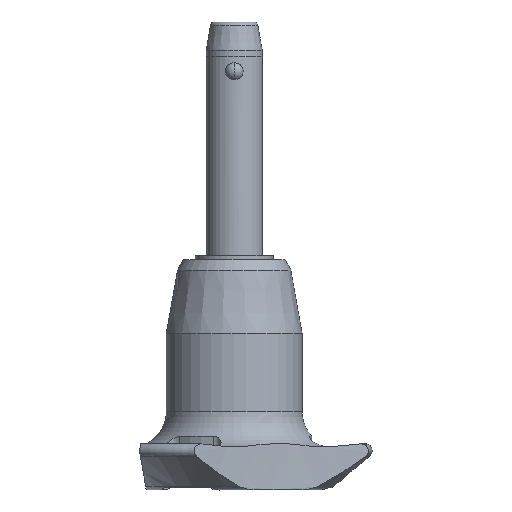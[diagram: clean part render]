
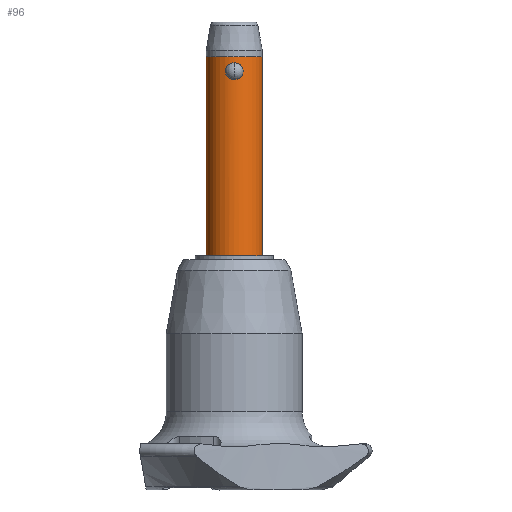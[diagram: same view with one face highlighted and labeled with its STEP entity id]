
A CAD part, front view. The second image highlights one B-rep face of the part: STEP entity #96.
In plain terms, the highlighted cylindrical face has radius 4 mm (diameter 8 mm), a partial arc.
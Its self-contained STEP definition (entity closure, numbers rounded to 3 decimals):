
#65 = VECTOR ( 'NONE', #993, 1000. ) ;
#96 = ADVANCED_FACE ( 'NONE', ( #2590, #1309 ), #2351, .T. ) ;
#97 = VERTEX_POINT ( 'NONE', #1957 ) ;
#138 = CARTESIAN_POINT ( 'NONE',  ( 4., 0., 3.28 ) ) ;
#183 = CARTESIAN_POINT ( 'NONE',  ( 0.326, -3.99, 2.371 ) ) ;
#199 = CARTESIAN_POINT ( 'NONE',  ( 0., -4., 0. ) ) ;
#206 = CARTESIAN_POINT ( 'NONE',  ( -1.266, -3.794, 1.12 ) ) ;
#232 = CARTESIAN_POINT ( 'NONE',  ( -0.628, -3.953, 0.143 ) ) ;
#403 = DIRECTION ( 'NONE',  ( 0., 0., 1. ) ) ;
#414 = CARTESIAN_POINT ( 'NONE',  ( 1.005, -3.874, 1.953 ) ) ;
#450 = CARTESIAN_POINT ( 'NONE',  ( -1.258, -3.797, 1.038 ) ) ;
#495 = EDGE_CURVE ( 'NONE', #2044, #2346, #1611, .T. ) ;
#526 = CARTESIAN_POINT ( 'NONE',  ( 4., 0., -25. ) ) ;
#543 = EDGE_LOOP ( 'NONE', ( #2053, #2291, #1184, #754 ) ) ;
#563 = VERTEX_POINT ( 'NONE', #526 ) ;
#584 = CARTESIAN_POINT ( 'NONE',  ( 0.627, -3.953, 0.143 ) ) ;
#621 = CARTESIAN_POINT ( 'NONE',  ( -0.553, -3.962, 2.285 ) ) ;
#627 = CARTESIAN_POINT ( 'NONE',  ( 0., 0., -25. ) ) ;
#639 = CARTESIAN_POINT ( 'NONE',  ( 0.164, -4., 2.4 ) ) ;
#645 = B_SPLINE_CURVE_WITH_KNOTS ( 'NONE', 3,
 ( #2588, #1072, #1688, #584, #2821, #2789, #1044, #1708, #2364, #1279, #2558, #1459, #875, #843, #1911, #2575, #414, #2135, #1304, #183, #639, #1059 ),
 .UNSPECIFIED., .F., .F.,
 ( 4, 2, 2, 2, 2, 2, 2, 2, 2, 2, 4 ),
 ( 0.004, 0.004, 0.005, 0.005, 0.005, 0.006, 0.006, 0.006, 0.007, 0.007, 0.008 ),
 .UNSPECIFIED. ) ;
#661 = B_SPLINE_CURVE_WITH_KNOTS ( 'NONE', 3,
 ( #2629, #1950, #2359, #621, #1491, #1718, #1285, #2582, #2610, #2403, #1052, #2155, #2142, #206, #450, #1932, #2816, #870, #1331, #2186, #232, #1113, #2035, #1142 ),
 .UNSPECIFIED., .F., .F.,
 ( 4, 2, 2, 2, 2, 2, 2, 2, 2, 2, 2, 4 ),
 ( 0., 0., 0.001, 0.001, 0.001, 0.001, 0.002, 0.002, 0.002, 0.003, 0.003, 0.004 ),
 .UNSPECIFIED. ) ;
#680 = LINE ( 'NONE', #2415, #1263 ) ;
#709 = CARTESIAN_POINT ( 'NONE',  ( 0., 0., -25. ) ) ;
#723 = EDGE_CURVE ( 'NONE', #563, #1908, #1977, .T. ) ;
#754 = ORIENTED_EDGE ( 'NONE', *, *, #495, .F. ) ;
#797 = ORIENTED_EDGE ( 'NONE', *, *, #2583, .F. ) ;
#838 = AXIS2_PLACEMENT_3D ( 'NONE', #627, #403, #2137 ) ;
#843 = CARTESIAN_POINT ( 'NONE',  ( 1.224, -3.808, 1.52 ) ) ;
#870 = CARTESIAN_POINT ( 'NONE',  ( -1.101, -3.846, 0.579 ) ) ;
#875 = CARTESIAN_POINT ( 'NONE',  ( 1.258, -3.797, 1.361 ) ) ;
#984 = VERTEX_POINT ( 'NONE', #199 ) ;
#993 = DIRECTION ( 'NONE',  ( 0., 0., 1. ) ) ;
#1006 = CARTESIAN_POINT ( 'NONE',  ( 4., 0., -25. ) ) ;
#1044 = CARTESIAN_POINT ( 'NONE',  ( 0.999, -3.874, 0.452 ) ) ;
#1052 = CARTESIAN_POINT ( 'NONE',  ( -1.133, -3.836, 1.747 ) ) ;
#1059 = CARTESIAN_POINT ( 'NONE',  ( 0., -4., 2.4 ) ) ;
#1072 = CARTESIAN_POINT ( 'NONE',  ( 0.162, -4., 0. ) ) ;
#1091 = EDGE_LOOP ( 'NONE', ( #797, #1198 ) ) ;
#1113 = CARTESIAN_POINT ( 'NONE',  ( -0.326, -3.99, 0.029 ) ) ;
#1133 = EDGE_CURVE ( 'NONE', #563, #2346, #2710, .T. ) ;
#1142 = CARTESIAN_POINT ( 'NONE',  ( 0., -4., 0. ) ) ;
#1184 = ORIENTED_EDGE ( 'NONE', *, *, #1133, .T. ) ;
#1198 = ORIENTED_EDGE ( 'NONE', *, *, #1610, .F. ) ;
#1256 = AXIS2_PLACEMENT_3D ( 'NONE', #1539, #1594, #2406 ) ;
#1263 = VECTOR ( 'NONE', #1342, 1000. ) ;
#1279 = CARTESIAN_POINT ( 'NONE',  ( 1.231, -3.806, 0.873 ) ) ;
#1285 = CARTESIAN_POINT ( 'NONE',  ( -0.827, -3.914, 2.117 ) ) ;
#1304 = CARTESIAN_POINT ( 'NONE',  ( 0.629, -3.953, 2.256 ) ) ;
#1309 = FACE_BOUND ( 'NONE', #1091, .T. ) ;
#1331 = CARTESIAN_POINT ( 'NONE',  ( -1.005, -3.874, 0.447 ) ) ;
#1342 = DIRECTION ( 'NONE',  ( 0., 0., 1. ) ) ;
#1456 = CARTESIAN_POINT ( 'NONE',  ( -4., 0., 3.28 ) ) ;
#1459 = CARTESIAN_POINT ( 'NONE',  ( 1.266, -3.794, 1.281 ) ) ;
#1491 = CARTESIAN_POINT ( 'NONE',  ( -0.625, -3.951, 2.25 ) ) ;
#1522 = AXIS2_PLACEMENT_3D ( 'NONE', #709, #2404, #1549 ) ;
#1539 = CARTESIAN_POINT ( 'NONE',  ( 0., 0., 3.28 ) ) ;
#1549 = DIRECTION ( 'NONE',  ( 1., 0., 0. ) ) ;
#1594 = DIRECTION ( 'NONE',  ( 0., 0., 1. ) ) ;
#1610 = EDGE_CURVE ( 'NONE', #984, #97, #645, .T. ) ;
#1611 = CIRCLE ( 'NONE', #1256, 4. ) ;
#1688 = CARTESIAN_POINT ( 'NONE',  ( 0.326, -3.99, 0.029 ) ) ;
#1708 = CARTESIAN_POINT ( 'NONE',  ( 1.092, -3.848, 0.582 ) ) ;
#1718 = CARTESIAN_POINT ( 'NONE',  ( -0.762, -3.927, 2.166 ) ) ;
#1775 = CARTESIAN_POINT ( 'NONE',  ( -4., 0., -25. ) ) ;
#1908 = VERTEX_POINT ( 'NONE', #1775 ) ;
#1911 = CARTESIAN_POINT ( 'NONE',  ( 1.199, -3.816, 1.599 ) ) ;
#1932 = CARTESIAN_POINT ( 'NONE',  ( -1.224, -3.808, 0.879 ) ) ;
#1950 = CARTESIAN_POINT ( 'NONE',  ( -0.164, -4., 2.4 ) ) ;
#1957 = CARTESIAN_POINT ( 'NONE',  ( 0., -4., 2.4 ) ) ;
#1977 = CIRCLE ( 'NONE', #1522, 4. ) ;
#2001 = EDGE_CURVE ( 'NONE', #1908, #2044, #680, .T. ) ;
#2035 = CARTESIAN_POINT ( 'NONE',  ( -0.162, -4., 0. ) ) ;
#2044 = VERTEX_POINT ( 'NONE', #1456 ) ;
#2053 = ORIENTED_EDGE ( 'NONE', *, *, #2001, .F. ) ;
#2135 = CARTESIAN_POINT ( 'NONE',  ( 0.769, -3.927, 2.171 ) ) ;
#2137 = DIRECTION ( 'NONE',  ( 1., 0., 0. ) ) ;
#2142 = CARTESIAN_POINT ( 'NONE',  ( -1.266, -3.794, 1.364 ) ) ;
#2155 = CARTESIAN_POINT ( 'NONE',  ( -1.231, -3.806, 1.527 ) ) ;
#2186 = CARTESIAN_POINT ( 'NONE',  ( -0.768, -3.927, 0.228 ) ) ;
#2291 = ORIENTED_EDGE ( 'NONE', *, *, #723, .F. ) ;
#2346 = VERTEX_POINT ( 'NONE', #138 ) ;
#2351 = CYLINDRICAL_SURFACE ( 'NONE', #838, 4. ) ;
#2359 = CARTESIAN_POINT ( 'NONE',  ( -0.325, -3.99, 2.371 ) ) ;
#2364 = CARTESIAN_POINT ( 'NONE',  ( 1.132, -3.836, 0.651 ) ) ;
#2403 = CARTESIAN_POINT ( 'NONE',  ( -1.092, -3.848, 1.818 ) ) ;
#2404 = DIRECTION ( 'NONE',  ( 0., 0., -1. ) ) ;
#2406 = DIRECTION ( 'NONE',  ( 1., 0., 0. ) ) ;
#2415 = CARTESIAN_POINT ( 'NONE',  ( -4., 0., -25. ) ) ;
#2558 = CARTESIAN_POINT ( 'NONE',  ( 1.266, -3.794, 1.035 ) ) ;
#2575 = CARTESIAN_POINT ( 'NONE',  ( 1.101, -3.846, 1.82 ) ) ;
#2582 = CARTESIAN_POINT ( 'NONE',  ( -0.945, -3.887, 2.008 ) ) ;
#2583 = EDGE_CURVE ( 'NONE', #97, #984, #661, .T. ) ;
#2588 = CARTESIAN_POINT ( 'NONE',  ( 0., -4., 0. ) ) ;
#2590 = FACE_OUTER_BOUND ( 'NONE', #543, .T. ) ;
#2610 = CARTESIAN_POINT ( 'NONE',  ( -0.998, -3.874, 1.949 ) ) ;
#2629 = CARTESIAN_POINT ( 'NONE',  ( 0., -4., 2.4 ) ) ;
#2710 = LINE ( 'NONE', #1006, #65 ) ;
#2789 = CARTESIAN_POINT ( 'NONE',  ( 0.944, -3.887, 0.391 ) ) ;
#2816 = CARTESIAN_POINT ( 'NONE',  ( -1.199, -3.816, 0.802 ) ) ;
#2821 = CARTESIAN_POINT ( 'NONE',  ( 0.768, -3.927, 0.228 ) ) ;
